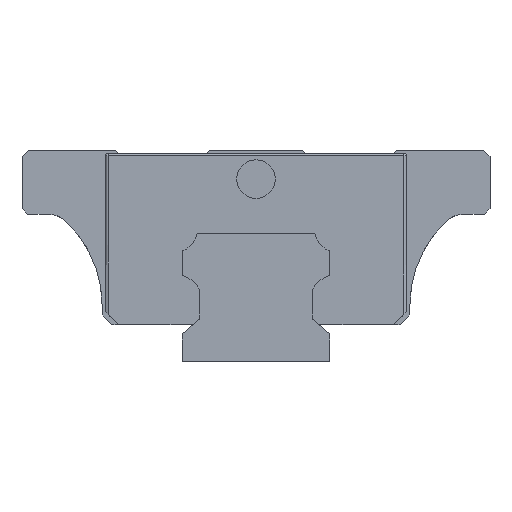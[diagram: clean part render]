
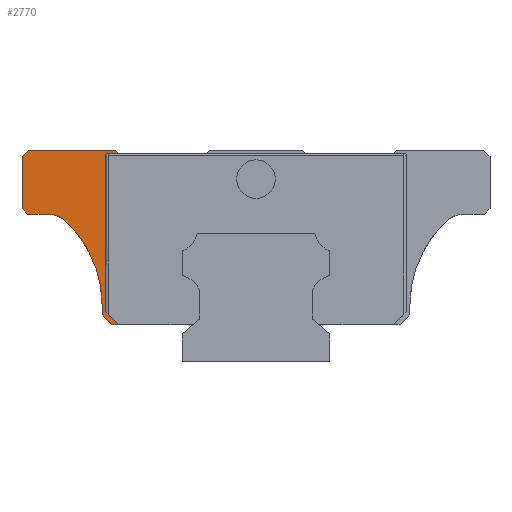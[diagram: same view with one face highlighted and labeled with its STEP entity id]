
A CAD part, left-side view. The second image highlights one B-rep face of the part: STEP entity #2770.
In plain terms, the highlighted planar face has unit normal (-1, 0, 0).
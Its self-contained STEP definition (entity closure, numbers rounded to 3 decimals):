
#41 = CARTESIAN_POINT ( 'NONE',  ( -29.5, 21.449, 5.8 ) ) ;
#66 = VERTEX_POINT ( 'NONE', #4790 ) ;
#243 = DIRECTION ( 'NONE',  ( 0., 0., 1. ) ) ;
#259 = LINE ( 'NONE', #786, #2421 ) ;
#356 = LINE ( 'NONE', #4757, #5076 ) ;
#458 = CARTESIAN_POINT ( 'NONE',  ( -29.5, 23.449, 32.135 ) ) ;
#656 = LINE ( 'NONE', #2995, #2206 ) ;
#658 = LINE ( 'NONE', #1220, #2682 ) ;
#706 = CARTESIAN_POINT ( 'NONE',  ( -29.5, 21.9, 33. ) ) ;
#786 = CARTESIAN_POINT ( 'NONE',  ( -29.5, 21.376, 32.375 ) ) ;
#797 = CARTESIAN_POINT ( 'NONE',  ( -29.5, 23.449, 7.8 ) ) ;
#812 = EDGE_CURVE ( 'NONE', #3195, #5687, #1547, .T. ) ;
#1106 = ORIENTED_EDGE ( 'NONE', *, *, #2757, .T. ) ;
#1220 = CARTESIAN_POINT ( 'NONE',  ( -29.5, 35.6, 23. ) ) ;
#1231 = LINE ( 'NONE', #706, #6680 ) ;
#1265 = DIRECTION ( 'NONE',  ( 0., 1., 0. ) ) ;
#1274 = DIRECTION ( 'NONE',  ( 0., 0., -1. ) ) ;
#1547 = LINE ( 'NONE', #5944, #7760 ) ;
#1685 = CARTESIAN_POINT ( 'NONE',  ( -29.5, 36.5, 32.05 ) ) ;
#1687 = CIRCLE ( 'NONE', #6315, 4. ) ;
#1690 = ORIENTED_EDGE ( 'NONE', *, *, #6243, .T. ) ;
#1747 = ORIENTED_EDGE ( 'NONE', *, *, #7177, .T. ) ;
#1751 = LINE ( 'NONE', #7714, #6201 ) ;
#1772 = CARTESIAN_POINT ( 'NONE',  ( -29.5, 36.5, 23.9 ) ) ;
#1830 = VERTEX_POINT ( 'NONE', #2118 ) ;
#1847 = DIRECTION ( 'NONE',  ( 0., 1., 0. ) ) ;
#1871 = EDGE_CURVE ( 'NONE', #7971, #7672, #1687, .T. ) ;
#1881 = VECTOR ( 'NONE', #3788, 1000. ) ;
#2063 = PLANE ( 'NONE',  #3397 ) ;
#2078 = CARTESIAN_POINT ( 'NONE',  ( -29.5, -24.589, 32.5 ) ) ;
#2084 = DIRECTION ( 'NONE',  ( 0., 0.643, 0.766 ) ) ;
#2085 = EDGE_CURVE ( 'NONE', #3040, #6254, #1751, .T. ) ;
#2118 = CARTESIAN_POINT ( 'NONE',  ( -29.5, 21.9, 33. ) ) ;
#2193 = DIRECTION ( 'NONE',  ( 0., 0., -1. ) ) ;
#2206 = VECTOR ( 'NONE', #3681, 1000. ) ;
#2209 = EDGE_CURVE ( 'NONE', #4390, #6879, #656, .T. ) ;
#2325 = CARTESIAN_POINT ( 'NONE',  ( -29.5, 42., 8.8 ) ) ;
#2334 = ORIENTED_EDGE ( 'NONE', *, *, #3162, .F. ) ;
#2342 = DIRECTION ( 'NONE',  ( 0., -1., 0. ) ) ;
#2421 = VECTOR ( 'NONE', #2084, 1000. ) ;
#2610 = LINE ( 'NONE', #7364, #4624 ) ;
#2656 = CARTESIAN_POINT ( 'NONE',  ( -29.5, 35.55, 33. ) ) ;
#2682 = VECTOR ( 'NONE', #5015, 1000. ) ;
#2757 = EDGE_CURVE ( 'NONE', #4390, #66, #7395, .T. ) ;
#2770 = ADVANCED_FACE ( 'NONE', ( #5158 ), #2063, .T. ) ;
#2821 = EDGE_CURVE ( 'NONE', #6254, #3835, #356, .T. ) ;
#2989 = VECTOR ( 'NONE', #1265, 1000. ) ;
#2995 = CARTESIAN_POINT ( 'NONE',  ( -29.5, 23.449, 31.75 ) ) ;
#3006 = DIRECTION ( 'NONE',  ( 0., 0., 1. ) ) ;
#3040 = VERTEX_POINT ( 'NONE', #7287 ) ;
#3070 = CARTESIAN_POINT ( 'NONE',  ( -29.5, 22.5, 5.8 ) ) ;
#3148 = ORIENTED_EDGE ( 'NONE', *, *, #6002, .T. ) ;
#3162 = EDGE_CURVE ( 'NONE', #6879, #7156, #3300, .T. ) ;
#3195 = VERTEX_POINT ( 'NONE', #2656 ) ;
#3269 = CARTESIAN_POINT ( 'NONE',  ( -29.5, 23.084, 32.135 ) ) ;
#3300 = LINE ( 'NONE', #797, #1881 ) ;
#3306 = CARTESIAN_POINT ( 'NONE',  ( -29.5, -10.009, 5.8 ) ) ;
#3384 = CARTESIAN_POINT ( 'NONE',  ( -29.5, 36.5, 23.9 ) ) ;
#3397 = AXIS2_PLACEMENT_3D ( 'NONE', #3306, #5762, #243 ) ;
#3416 = ORIENTED_EDGE ( 'NONE', *, *, #812, .T. ) ;
#3681 = DIRECTION ( 'NONE',  ( 0., 0., -1. ) ) ;
#3771 = CARTESIAN_POINT ( 'NONE',  ( -29.5, 24., 7.3 ) ) ;
#3788 = DIRECTION ( 'NONE',  ( 0., -0.707, -0.707 ) ) ;
#3835 = VERTEX_POINT ( 'NONE', #3070 ) ;
#3920 = AXIS2_PLACEMENT_3D ( 'NONE', #3269, #6859, #4404 ) ;
#4032 = DIRECTION ( 'NONE',  ( 0., -0.707, -0.707 ) ) ;
#4055 = EDGE_CURVE ( 'NONE', #7235, #5106, #6569, .T. ) ;
#4185 = EDGE_LOOP ( 'NONE', ( #6082, #1690, #7194, #7160, #4709, #5484, #1747, #2334, #6183, #1106, #7120, #3148, #5058, #3416, #6069 ) ) ;
#4217 = DIRECTION ( 'NONE',  ( 1., 0., 0. ) ) ;
#4379 = LINE ( 'NONE', #2078, #2989 ) ;
#4390 = VERTEX_POINT ( 'NONE', #458 ) ;
#4404 = DIRECTION ( 'NONE',  ( 0., 0., 1. ) ) ;
#4569 = EDGE_CURVE ( 'NONE', #5714, #66, #4379, .T. ) ;
#4624 = VECTOR ( 'NONE', #1274, 1000. ) ;
#4709 = ORIENTED_EDGE ( 'NONE', *, *, #2085, .T. ) ;
#4747 = AXIS2_PLACEMENT_3D ( 'NONE', #2325, #4217, #3006 ) ;
#4757 = CARTESIAN_POINT ( 'NONE',  ( -29.5, 24., 7.3 ) ) ;
#4770 = VECTOR ( 'NONE', #2342, 1000. ) ;
#4790 = CARTESIAN_POINT ( 'NONE',  ( -29.5, 23.084, 32.5 ) ) ;
#4876 = LINE ( 'NONE', #4918, #4770 ) ;
#4918 = CARTESIAN_POINT ( 'NONE',  ( -29.5, 24.236, 5.8 ) ) ;
#4987 = EDGE_CURVE ( 'NONE', #7672, #3040, #7832, .T. ) ;
#5015 = DIRECTION ( 'NONE',  ( 0., -1., 0. ) ) ;
#5058 = ORIENTED_EDGE ( 'NONE', *, *, #5872, .T. ) ;
#5062 = DIRECTION ( 'NONE',  ( 1., 0., 0. ) ) ;
#5076 = VECTOR ( 'NONE', #4032, 1000. ) ;
#5106 = VERTEX_POINT ( 'NONE', #5411 ) ;
#5158 = FACE_OUTER_BOUND ( 'NONE', #4185, .T. ) ;
#5201 = CARTESIAN_POINT ( 'NONE',  ( -29.5, 23.449, 7.8 ) ) ;
#5212 = DIRECTION ( 'NONE',  ( 0., 0.707, -0.707 ) ) ;
#5411 = CARTESIAN_POINT ( 'NONE',  ( -29.5, 35.6, 23. ) ) ;
#5484 = ORIENTED_EDGE ( 'NONE', *, *, #2821, .T. ) ;
#5541 = CARTESIAN_POINT ( 'NONE',  ( -29.5, 29.671, 21.914 ) ) ;
#5687 = VERTEX_POINT ( 'NONE', #1685 ) ;
#5714 = VERTEX_POINT ( 'NONE', #6635 ) ;
#5740 = DIRECTION ( 'NONE',  ( 0., 0., 1. ) ) ;
#5762 = DIRECTION ( 'NONE',  ( -1., 0., 0. ) ) ;
#5843 = DIRECTION ( 'NONE',  ( 0., -0.707, -0.707 ) ) ;
#5848 = EDGE_CURVE ( 'NONE', #5687, #7235, #2610, .T. ) ;
#5872 = EDGE_CURVE ( 'NONE', #1830, #3195, #1231, .T. ) ;
#5944 = CARTESIAN_POINT ( 'NONE',  ( -29.5, 35.55, 33. ) ) ;
#6002 = EDGE_CURVE ( 'NONE', #5714, #1830, #259, .T. ) ;
#6069 = ORIENTED_EDGE ( 'NONE', *, *, #5848, .T. ) ;
#6082 = ORIENTED_EDGE ( 'NONE', *, *, #4055, .T. ) ;
#6183 = ORIENTED_EDGE ( 'NONE', *, *, #2209, .F. ) ;
#6201 = VECTOR ( 'NONE', #2193, 1000. ) ;
#6243 = EDGE_CURVE ( 'NONE', #5106, #7971, #658, .T. ) ;
#6254 = VERTEX_POINT ( 'NONE', #3771 ) ;
#6315 = AXIS2_PLACEMENT_3D ( 'NONE', #7070, #5062, #5740 ) ;
#6569 = LINE ( 'NONE', #3384, #7486 ) ;
#6635 = CARTESIAN_POINT ( 'NONE',  ( -29.5, 21.48, 32.5 ) ) ;
#6656 = CARTESIAN_POINT ( 'NONE',  ( -29.5, 32.41, 23. ) ) ;
#6680 = VECTOR ( 'NONE', #1847, 1000. ) ;
#6859 = DIRECTION ( 'NONE',  ( 1., 0., 0. ) ) ;
#6879 = VERTEX_POINT ( 'NONE', #5201 ) ;
#7070 = CARTESIAN_POINT ( 'NONE',  ( -29.5, 32.41, 19. ) ) ;
#7120 = ORIENTED_EDGE ( 'NONE', *, *, #4569, .F. ) ;
#7156 = VERTEX_POINT ( 'NONE', #41 ) ;
#7160 = ORIENTED_EDGE ( 'NONE', *, *, #4987, .T. ) ;
#7177 = EDGE_CURVE ( 'NONE', #3835, #7156, #4876, .T. ) ;
#7194 = ORIENTED_EDGE ( 'NONE', *, *, #1871, .T. ) ;
#7235 = VERTEX_POINT ( 'NONE', #1772 ) ;
#7287 = CARTESIAN_POINT ( 'NONE',  ( -29.5, 24., 8.8 ) ) ;
#7364 = CARTESIAN_POINT ( 'NONE',  ( -29.5, 36.5, 33. ) ) ;
#7395 = CIRCLE ( 'NONE', #3920, 0.365 ) ;
#7486 = VECTOR ( 'NONE', #5843, 1000. ) ;
#7672 = VERTEX_POINT ( 'NONE', #5541 ) ;
#7714 = CARTESIAN_POINT ( 'NONE',  ( -29.5, 24., 8.8 ) ) ;
#7760 = VECTOR ( 'NONE', #5212, 1000. ) ;
#7832 = CIRCLE ( 'NONE', #4747, 18. ) ;
#7971 = VERTEX_POINT ( 'NONE', #6656 ) ;
